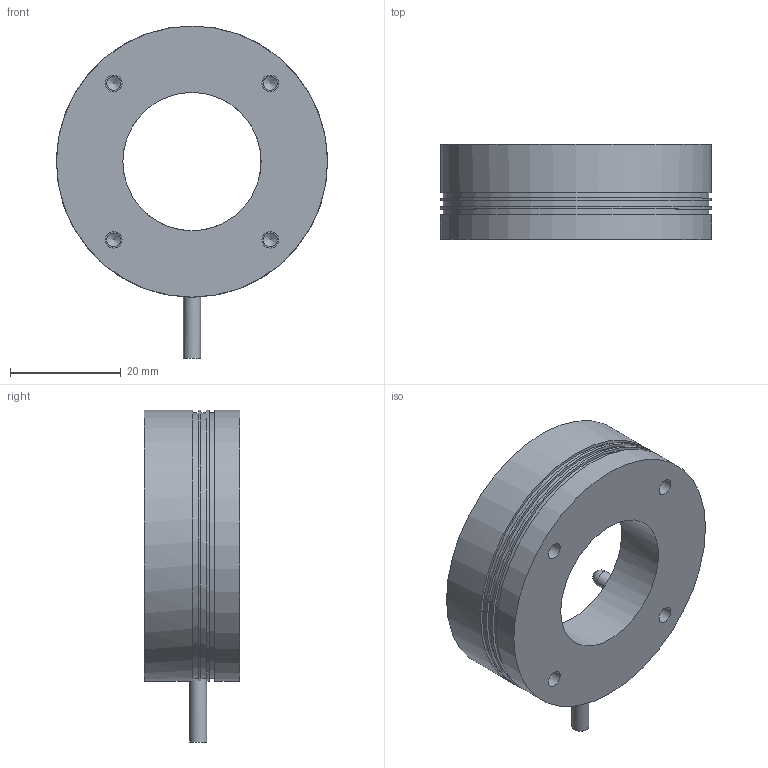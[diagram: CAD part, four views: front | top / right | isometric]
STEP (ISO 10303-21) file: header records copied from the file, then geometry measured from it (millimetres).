
FILE_DESCRIPTION(/* description */ (''),/* implementation_level */ '2;1');
FILE_NAME(/* name */ 'C:\#Vault-WorkDir\Konstruktions-Dokumente\Projekte\Zubehör allgemein\Falcon Beleuchtungen\153-00730_LR 50 xW-24-KFL5.stp',/* time_stamp */ '2018-07-25T09:11:58+02:00',/* author */ ('SensoPart'),/* organization */ ('SensoPart'),/* preprocessor_version */ 'ST-DEVELOPER v17',/* originating_system */ 'Autodesk Inventor 2018',/* authorisation */ '');
FILE_SCHEMA (('AUTOMOTIVE_DESIGN { 1 0 10303 214 3 1 1 }'));
Length unit declared in the file: millimetre
Products named in the file (1): GH-ENG-0026154_Shrinkwrap_2
Bounding box: 49 x 17.2 x 60 mm (x, y, z)
Volume: 15126.2 mm3; surface area: 8070.1 mm2
Topology: 5 solids, 5 shells, 78 faces, 200 edges, 149 vertices
Faces by surface type: cylinder 37, plane 31, cone 6, sphere 4
Full cylindrical faces by diameter (mm): 0.5 x8, 2.5 x4, 2.9 x4, 3 x4, 3.1 x1, 3.2 x5, 25 x1, 28 x1, 47.5 x1, 48 x1, 49 x3
Entity records: 2669 total; most frequent: CARTESIAN_POINT 613, DIRECTION 463, ORIENTED_EDGE 384, AXIS2_PLACEMENT_3D 208, EDGE_CURVE 192, VERTEX_POINT 149, CIRCLE 129, EDGE_LOOP 105
